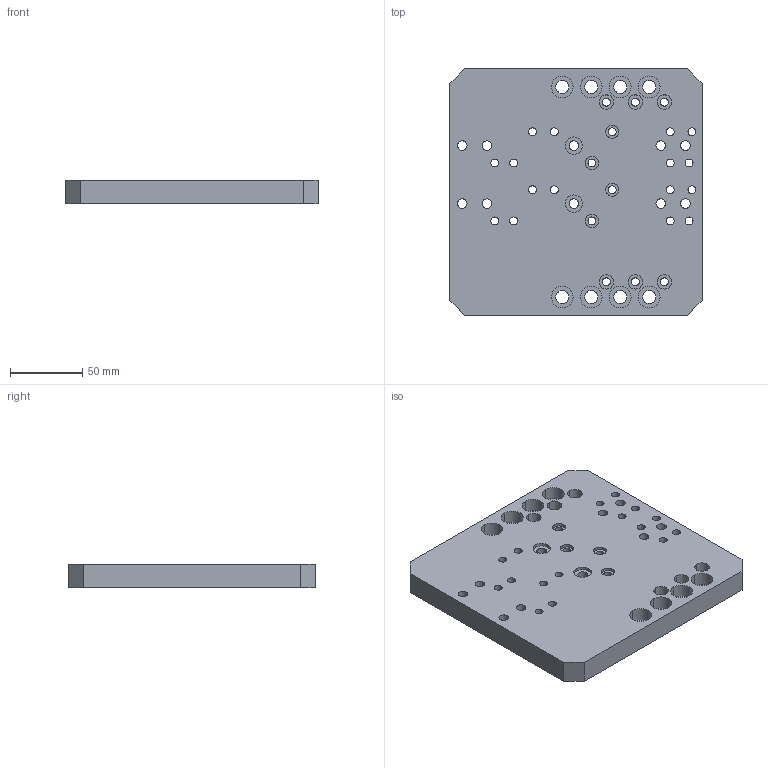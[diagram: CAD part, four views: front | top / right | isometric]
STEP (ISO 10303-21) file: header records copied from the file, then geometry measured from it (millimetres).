
FILE_DESCRIPTION((''),'2;1');
FILE_NAME('R402003944','2023-09-25T11:51:21',('THD3HC'),(''),'CREO PARAMETRIC BY PTC INC, 2020044','CREO PARAMETRIC BY PTC INC, 2020044','');
FILE_SCHEMA(('CONFIG_CONTROL_DESIGN','SHAPE_APPEARANCE_LAYERS_GROUPS'));
Length unit declared in the file: millimetre
Products named in the file (1): R402003944
Bounding box: 174 x 170 x 16 mm (x, y, z)
Volume: 418903.2 mm3; surface area: 86664.7 mm2
Topology: 1 solids, 1 shells, 259 faces, 618 edges, 412 vertices
Faces by surface type: cylinder 191, plane 68
Entity records: 12639 total; most frequent: DIRECTION 1520, CARTESIAN_POINT 1289, ORIENTED_EDGE 1236, PRESENTATION_STYLE_ASSIGNMENT 855, AXIS2_PLACEMENT_3D 643, STYLED_ITEM 619, CURVE_STYLE 618, EDGE_CURVE 618
